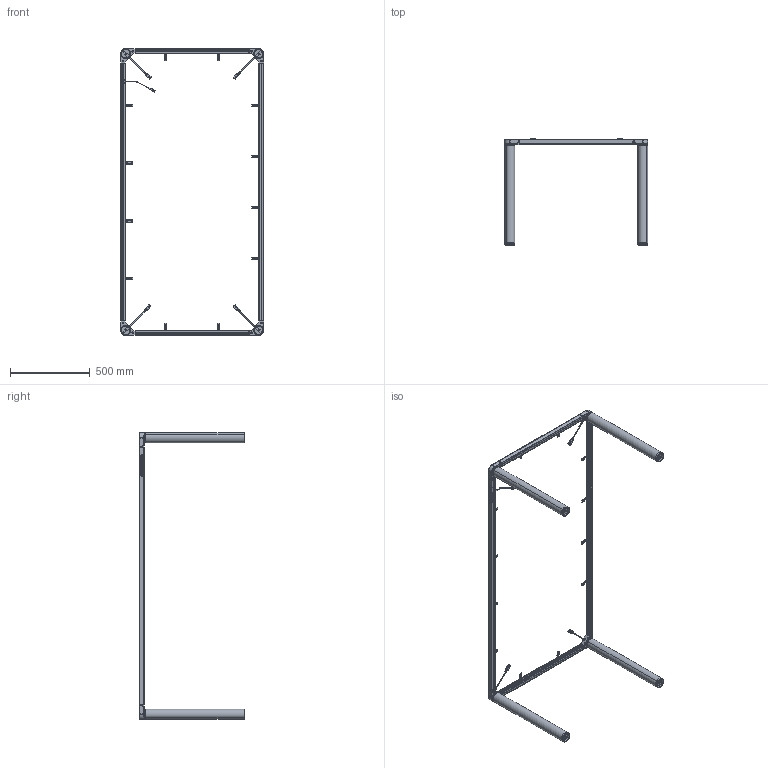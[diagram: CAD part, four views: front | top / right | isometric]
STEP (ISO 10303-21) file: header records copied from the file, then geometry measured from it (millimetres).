
FILE_DESCRIPTION((''),'2;1');
FILE_NAME('1103W4011_ASM','2026-03-03T15:15:15',('jak'),(''),'CREO PARAMETRIC BY PTC INC, 2022024','CREO PARAMETRIC BY PTC INC, 2022024','');
FILE_SCHEMA(('AUTOMOTIVE_DESIGN { 1 0 10303 214 1 1 1 1 }'));
Length unit declared in the file: millimetre
Products named in the file (9): 1103W1001; 1103W4008; 1103W4006; 1103W4010; 09144019; 1103W1006; 1103W4003; 1103W4001_ASM; 1103W4011_ASM
Assembly tree (26 placements, depth 3):
  1103W4011_ASM
    1103W1001  x4
    1103W4008
    1103W4006  x2
    1103W4010
    09144019
    1103W1006  x12
    1103W4001_ASM  x4
      1103W4003
Bounding box: 899.49 x 662.88 x 1797 mm (x, y, z)
Volume: 9435979.7 mm3; surface area: 2007766.5 mm2
Topology: 25 solids, 25 shells, 5946 faces, 14419 edges, 8698 vertices
Faces by surface type: cylinder 2155, plane 1901, bspline 956, torus 662, sphere 140, cone 124, extrusion 8
Entity records: 79643 total; most frequent: CARTESIAN_POINT 22734, ORIENTED_EDGE 9450, DIRECTION 8990, EDGE_CURVE 4725, AXIS2_PLACEMENT_3D 3193, VERTEX_POINT 2963, PRESENTATION_STYLE_ASSIGNMENT 2704, STYLED_ITEM 2704
